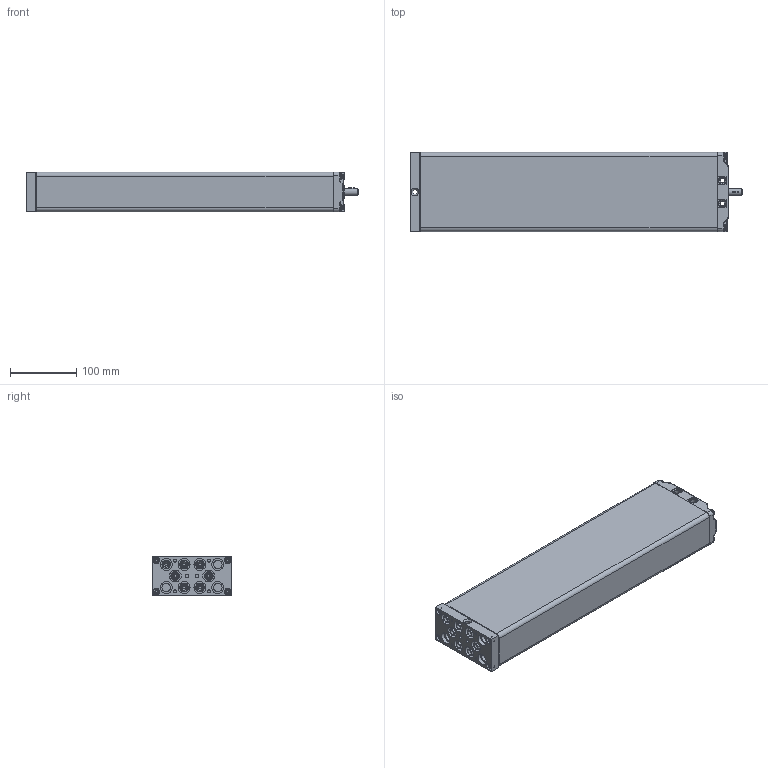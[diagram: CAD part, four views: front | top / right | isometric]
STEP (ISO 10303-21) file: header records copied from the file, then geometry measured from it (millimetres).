
FILE_DESCRIPTION(/* description */ ('Unknown'),/* implementation_level */ '2;1');
FILE_NAME(/* name */ '102.00210 Pumpe PB 7830 W',/* time_stamp */ '2016-11-25T10:39:24+01:00',/* author */ ('Unknown'),/* organization */ ('Unknown'),/* preprocessor_version */ 'ST-DEVELOPER v16.7',/* originating_system */ 'DEX',/* authorisation */ $);
FILE_SCHEMA (('AUTOMOTIVE_DESIGN {1 0 10303 214 3 1 1}'));
Products named in the file (16): 102.00210; 115.10033; 125.00061; 115.00008; 142.00021; 125.00021; 142.00013; 125.00143; 115.00140; 126.00006; 122.00040; 119.00043; 126.00036; 142.00057; 142.00083; 142.00017
Assembly tree (32 placements, depth 3):
  102.00210
    115.10033  x7
      125.00061
      115.00008
      142.00021
      125.00021
    142.00013  x8
    125.00143
    115.00140
      126.00006
      122.00040
    119.00043
    126.00036
    142.00057
    142.00083  x4
    142.00017  x2
Bounding box: 502.5 x 120 x 60.3 mm (x, y, z)
Volume: 655312.8 mm3; surface area: 436758.2 mm2
Topology: 41 solids, 41 shells, 2099 faces, 4781 edges, 2789 vertices
Faces by surface type: plane 739, cylinder 476, bspline 377, cone 342, torus 108, sphere 57
Full cylindrical faces by diameter (mm): 3.5 x7, 4.1 x7, 4.134 x4, 4.2 x7, 4.917 x2, 5 x12, 5.8 x4, 6 x2, 6.8 x1, 6.917 x14, 8 x15, 8.5 x4, 9.8 x8, 10 x5, 10.4 x1, 10.5 x4, 12.5 x7, 13 x24, 14 x1, 14.4 x7, 17.9 x14, 18 x11, 19 x1
Entity records: 60391 total; most frequent: CARTESIAN_POINT 28876, ORIENTED_EDGE 5076, DIRECTION 4433, EDGE_CURVE 2538, AXIS2_PLACEMENT_3D 1720, VERTEX_POINT 1603, FACE_BOUND 1413, EDGE_LOOP 1412
